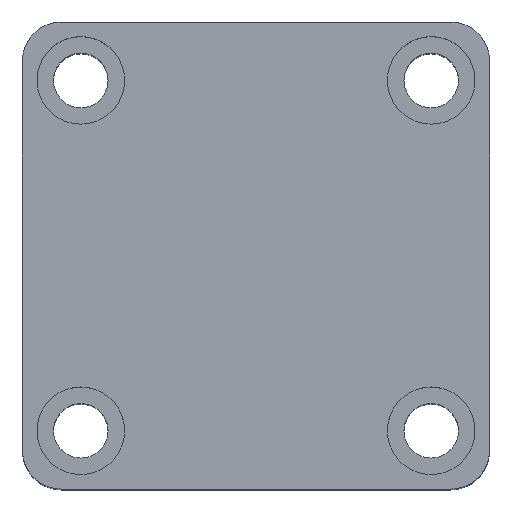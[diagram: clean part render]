
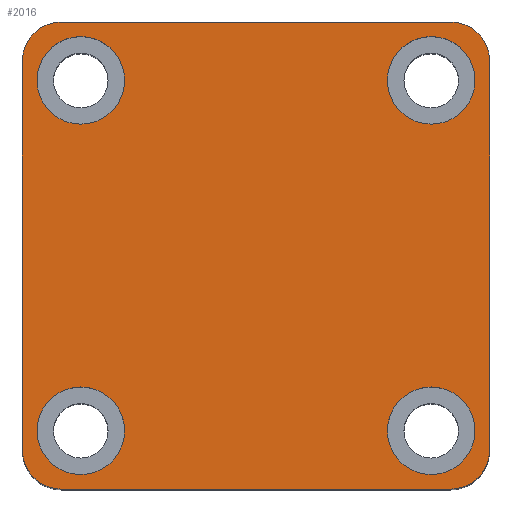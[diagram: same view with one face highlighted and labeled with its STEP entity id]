
A CAD part, top view. The second image highlights one B-rep face of the part: STEP entity #2016.
In plain terms, the highlighted planar face has unit normal (0, 0, 1).
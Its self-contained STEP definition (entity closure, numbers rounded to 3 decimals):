
#109 = CIRCLE ( 'NONE', #1110, 4.5 ) ;
#179 = FACE_BOUND ( 'NONE', #415, .T. ) ;
#180 = FACE_BOUND ( 'NONE', #418, .T. ) ;
#182 = FACE_BOUND ( 'NONE', #416, .T. ) ;
#187 = FACE_BOUND ( 'NONE', #442, .T. ) ;
#189 = FACE_OUTER_BOUND ( 'NONE', #413, .T. ) ;
#342 = CIRCLE ( 'NONE', #2649, 4. ) ;
#343 = CIRCLE ( 'NONE', #2650, 4. ) ;
#344 = CIRCLE ( 'NONE', #2648, 4. ) ;
#345 = CIRCLE ( 'NONE', #2651, 4. ) ;
#346 = CIRCLE ( 'NONE', #2652, 4.5 ) ;
#347 = CIRCLE ( 'NONE', #2653, 4.5 ) ;
#349 = CIRCLE ( 'NONE', #2655, 4.5 ) ;
#353 = CIRCLE ( 'NONE', #2654, 4.5 ) ;
#354 = VECTOR ( 'NONE', #1533, 1000. ) ;
#357 = LINE ( 'NONE', #1559, #354 ) ;
#360 = LINE ( 'NONE', #1584, #361 ) ;
#361 = VECTOR ( 'NONE', #1580, 1000. ) ;
#365 = VECTOR ( 'NONE', #1558, 1000. ) ;
#369 = LINE ( 'NONE', #1583, #365 ) ;
#413 = EDGE_LOOP ( 'NONE', ( #707, #708, #709, #710, #711, #712, #713, #714 ) ) ;
#415 = EDGE_LOOP ( 'NONE', ( #700, #701 ) ) ;
#416 = EDGE_LOOP ( 'NONE', ( #698, #699 ) ) ;
#418 = EDGE_LOOP ( 'NONE', ( #705, #706 ) ) ;
#442 = EDGE_LOOP ( 'NONE', ( #702, #703 ) ) ;
#496 = VERTEX_POINT ( 'NONE', #1861 ) ;
#514 = VERTEX_POINT ( 'NONE', #1818 ) ;
#516 = VERTEX_POINT ( 'NONE', #1817 ) ;
#521 = VERTEX_POINT ( 'NONE', #1810 ) ;
#528 = VERTEX_POINT ( 'NONE', #1791 ) ;
#530 = VERTEX_POINT ( 'NONE', #1796 ) ;
#537 = VERTEX_POINT ( 'NONE', #1767 ) ;
#564 = VERTEX_POINT ( 'NONE', #1711 ) ;
#578 = VERTEX_POINT ( 'NONE', #1676 ) ;
#580 = VERTEX_POINT ( 'NONE', #1653 ) ;
#582 = VERTEX_POINT ( 'NONE', #1661 ) ;
#587 = VERTEX_POINT ( 'NONE', #1644 ) ;
#591 = VERTEX_POINT ( 'NONE', #1649 ) ;
#592 = VERTEX_POINT ( 'NONE', #1630 ) ;
#600 = VERTEX_POINT ( 'NONE', #1614 ) ;
#608 = VERTEX_POINT ( 'NONE', #1594 ) ;
#698 = ORIENTED_EDGE ( 'NONE', *, *, #993, .F. ) ;
#699 = ORIENTED_EDGE ( 'NONE', *, *, #2756, .F. ) ;
#700 = ORIENTED_EDGE ( 'NONE', *, *, #994, .F. ) ;
#701 = ORIENTED_EDGE ( 'NONE', *, *, #2760, .F. ) ;
#702 = ORIENTED_EDGE ( 'NONE', *, *, #995, .F. ) ;
#703 = ORIENTED_EDGE ( 'NONE', *, *, #2764, .F. ) ;
#705 = ORIENTED_EDGE ( 'NONE', *, *, #996, .F. ) ;
#706 = ORIENTED_EDGE ( 'NONE', *, *, #2657, .F. ) ;
#707 = ORIENTED_EDGE ( 'NONE', *, *, #983, .T. ) ;
#708 = ORIENTED_EDGE ( 'NONE', *, *, #997, .T. ) ;
#709 = ORIENTED_EDGE ( 'NONE', *, *, #985, .T. ) ;
#710 = ORIENTED_EDGE ( 'NONE', *, *, #998, .T. ) ;
#711 = ORIENTED_EDGE ( 'NONE', *, *, #989, .T. ) ;
#712 = ORIENTED_EDGE ( 'NONE', *, *, #999, .T. ) ;
#713 = ORIENTED_EDGE ( 'NONE', *, *, #2768, .T. ) ;
#714 = ORIENTED_EDGE ( 'NONE', *, *, #1001, .T. ) ;
#948 = AXIS2_PLACEMENT_3D ( 'NONE', #2174, #2173, #2172 ) ;
#971 = AXIS2_PLACEMENT_3D ( 'NONE', #2197, #2098, #2097 ) ;
#974 = AXIS2_PLACEMENT_3D ( 'NONE', #2147, #2145, #2144 ) ;
#983 = EDGE_CURVE ( 'NONE', #592, #578, #360, .T. ) ;
#985 = EDGE_CURVE ( 'NONE', #582, #591, #369, .T. ) ;
#989 = EDGE_CURVE ( 'NONE', #600, #608, #357, .T. ) ;
#993 = EDGE_CURVE ( 'NONE', #496, #564, #349, .T. ) ;
#994 = EDGE_CURVE ( 'NONE', #521, #537, #353, .T. ) ;
#995 = EDGE_CURVE ( 'NONE', #516, #530, #347, .T. ) ;
#996 = EDGE_CURVE ( 'NONE', #514, #528, #346, .T. ) ;
#997 = EDGE_CURVE ( 'NONE', #578, #582, #345, .T. ) ;
#998 = EDGE_CURVE ( 'NONE', #591, #600, #343, .T. ) ;
#999 = EDGE_CURVE ( 'NONE', #608, #587, #342, .T. ) ;
#1001 = EDGE_CURVE ( 'NONE', #580, #592, #344, .T. ) ;
#1110 = AXIS2_PLACEMENT_3D ( 'NONE', #2601, #2600, #2599 ) ;
#1149 = AXIS2_PLACEMENT_3D ( 'NONE', #1495, #1494, #2613 ) ;
#1358 = VECTOR ( 'NONE', #2089, 1000. ) ;
#1360 = LINE ( 'NONE', #2090, #1358 ) ;
#1372 = CIRCLE ( 'NONE', #971, 4.5 ) ;
#1378 = CIRCLE ( 'NONE', #974, 4.5 ) ;
#1384 = CIRCLE ( 'NONE', #948, 4.5 ) ;
#1491 = PLANE ( 'NONE',  #1149 ) ;
#1494 = DIRECTION ( 'NONE',  ( 0., 0., 1. ) ) ;
#1495 = CARTESIAN_POINT ( 'NONE',  ( 0., 0., 50. ) ) ;
#1496 = DIRECTION ( 'NONE',  ( 1., 0., 0. ) ) ;
#1500 = DIRECTION ( 'NONE',  ( 0., 0., 1. ) ) ;
#1502 = CARTESIAN_POINT ( 'NONE',  ( -18., 18., 50. ) ) ;
#1533 = DIRECTION ( 'NONE',  ( 1., 0., 0. ) ) ;
#1558 = DIRECTION ( 'NONE',  ( 0., -1., 0. ) ) ;
#1559 = CARTESIAN_POINT ( 'NONE',  ( -24., -24., 50. ) ) ;
#1580 = DIRECTION ( 'NONE',  ( -1., 0., 0. ) ) ;
#1583 = CARTESIAN_POINT ( 'NONE',  ( -24., 24., 50. ) ) ;
#1584 = CARTESIAN_POINT ( 'NONE',  ( -24., 24., 50. ) ) ;
#1594 = CARTESIAN_POINT ( 'NONE',  ( 20., -24., 50. ) ) ;
#1614 = CARTESIAN_POINT ( 'NONE',  ( -20., -24., 50. ) ) ;
#1630 = CARTESIAN_POINT ( 'NONE',  ( 20., 24., 50. ) ) ;
#1644 = CARTESIAN_POINT ( 'NONE',  ( 24., -20., 50. ) ) ;
#1649 = CARTESIAN_POINT ( 'NONE',  ( -24., -20., 50. ) ) ;
#1653 = CARTESIAN_POINT ( 'NONE',  ( 24., 20., 50. ) ) ;
#1661 = CARTESIAN_POINT ( 'NONE',  ( -24., 20., 50. ) ) ;
#1676 = CARTESIAN_POINT ( 'NONE',  ( -20., 24., 50. ) ) ;
#1711 = CARTESIAN_POINT ( 'NONE',  ( -22.5, 18., 50. ) ) ;
#1767 = CARTESIAN_POINT ( 'NONE',  ( 13.5, 18., 50. ) ) ;
#1791 = CARTESIAN_POINT ( 'NONE',  ( 13.5, -18., 50. ) ) ;
#1796 = CARTESIAN_POINT ( 'NONE',  ( -22.5, -18., 50. ) ) ;
#1810 = CARTESIAN_POINT ( 'NONE',  ( 22.5, 18., 50. ) ) ;
#1817 = CARTESIAN_POINT ( 'NONE',  ( -13.5, -18., 50. ) ) ;
#1818 = CARTESIAN_POINT ( 'NONE',  ( 22.5, -18., 50. ) ) ;
#1861 = CARTESIAN_POINT ( 'NONE',  ( -13.5, 18., 50. ) ) ;
#1945 = DIRECTION ( 'NONE',  ( 1., 0., 0. ) ) ;
#1946 = DIRECTION ( 'NONE',  ( 0., 0., 1. ) ) ;
#1947 = CARTESIAN_POINT ( 'NONE',  ( 20., 20., 50. ) ) ;
#1948 = DIRECTION ( 'NONE',  ( 1., 0., 0. ) ) ;
#1949 = DIRECTION ( 'NONE',  ( 0., 0., 1. ) ) ;
#1950 = CARTESIAN_POINT ( 'NONE',  ( 20., -20., 50. ) ) ;
#1951 = DIRECTION ( 'NONE',  ( 1., 0., 0. ) ) ;
#1952 = DIRECTION ( 'NONE',  ( 0., 0., 1. ) ) ;
#1953 = CARTESIAN_POINT ( 'NONE',  ( -20., -20., 50. ) ) ;
#1956 = DIRECTION ( 'NONE',  ( 1., 0., 0. ) ) ;
#1957 = DIRECTION ( 'NONE',  ( 0., 0., 1. ) ) ;
#1958 = CARTESIAN_POINT ( 'NONE',  ( -20., 20., 50. ) ) ;
#1959 = DIRECTION ( 'NONE',  ( 1., 0., 0. ) ) ;
#1960 = DIRECTION ( 'NONE',  ( 0., 0., 1. ) ) ;
#1961 = CARTESIAN_POINT ( 'NONE',  ( 18., -18., 50. ) ) ;
#1962 = DIRECTION ( 'NONE',  ( 1., 0., 0. ) ) ;
#1963 = DIRECTION ( 'NONE',  ( 0., 0., 1. ) ) ;
#1964 = CARTESIAN_POINT ( 'NONE',  ( -18., -18., 50. ) ) ;
#1965 = DIRECTION ( 'NONE',  ( 1., 0., 0. ) ) ;
#1966 = DIRECTION ( 'NONE',  ( 0., 0., 1. ) ) ;
#1967 = CARTESIAN_POINT ( 'NONE',  ( 18., 18., 50. ) ) ;
#2016 = ADVANCED_FACE ( 'NONE', ( #182, #179, #187, #180, #189 ), #1491, .T. ) ;
#2089 = DIRECTION ( 'NONE',  ( 0., 1., 0. ) ) ;
#2090 = CARTESIAN_POINT ( 'NONE',  ( 24., 24., 50. ) ) ;
#2097 = DIRECTION ( 'NONE',  ( 1., 0., 0. ) ) ;
#2098 = DIRECTION ( 'NONE',  ( 0., 0., 1. ) ) ;
#2144 = DIRECTION ( 'NONE',  ( 1., 0., 0. ) ) ;
#2145 = DIRECTION ( 'NONE',  ( 0., 0., 1. ) ) ;
#2147 = CARTESIAN_POINT ( 'NONE',  ( 18., 18., 50. ) ) ;
#2172 = DIRECTION ( 'NONE',  ( 1., 0., 0. ) ) ;
#2173 = DIRECTION ( 'NONE',  ( 0., 0., 1. ) ) ;
#2174 = CARTESIAN_POINT ( 'NONE',  ( -18., 18., 50. ) ) ;
#2197 = CARTESIAN_POINT ( 'NONE',  ( -18., -18., 50. ) ) ;
#2599 = DIRECTION ( 'NONE',  ( 1., 0., 0. ) ) ;
#2600 = DIRECTION ( 'NONE',  ( 0., 0., 1. ) ) ;
#2601 = CARTESIAN_POINT ( 'NONE',  ( 18., -18., 50. ) ) ;
#2613 = DIRECTION ( 'NONE',  ( 1., 0., 0. ) ) ;
#2648 = AXIS2_PLACEMENT_3D ( 'NONE', #1947, #1946, #1945 ) ;
#2649 = AXIS2_PLACEMENT_3D ( 'NONE', #1950, #1949, #1948 ) ;
#2650 = AXIS2_PLACEMENT_3D ( 'NONE', #1953, #1952, #1951 ) ;
#2651 = AXIS2_PLACEMENT_3D ( 'NONE', #1958, #1957, #1956 ) ;
#2652 = AXIS2_PLACEMENT_3D ( 'NONE', #1961, #1960, #1959 ) ;
#2653 = AXIS2_PLACEMENT_3D ( 'NONE', #1964, #1963, #1962 ) ;
#2654 = AXIS2_PLACEMENT_3D ( 'NONE', #1967, #1966, #1965 ) ;
#2655 = AXIS2_PLACEMENT_3D ( 'NONE', #1502, #1500, #1496 ) ;
#2657 = EDGE_CURVE ( 'NONE', #528, #514, #109, .T. ) ;
#2756 = EDGE_CURVE ( 'NONE', #564, #496, #1384, .T. ) ;
#2760 = EDGE_CURVE ( 'NONE', #537, #521, #1378, .T. ) ;
#2764 = EDGE_CURVE ( 'NONE', #530, #516, #1372, .T. ) ;
#2768 = EDGE_CURVE ( 'NONE', #587, #580, #1360, .T. ) ;
